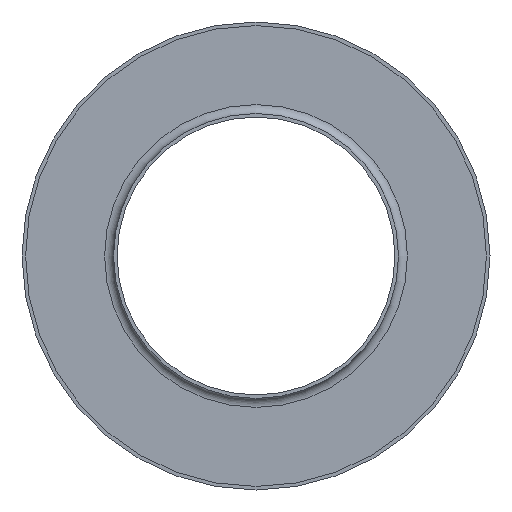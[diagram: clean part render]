
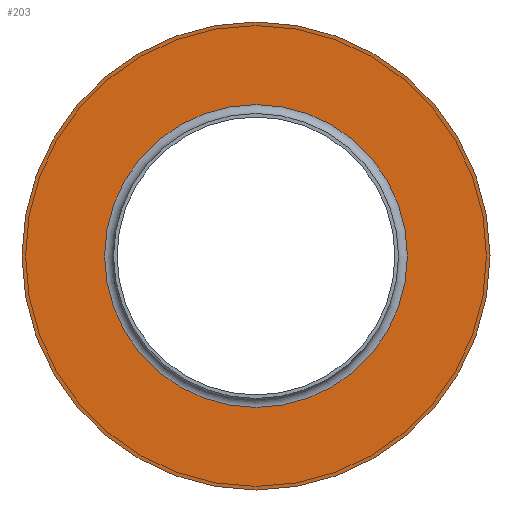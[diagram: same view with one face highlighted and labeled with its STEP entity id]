
A CAD part, front view. The second image highlights one B-rep face of the part: STEP entity #203.
In plain terms, the highlighted planar face has unit normal (0, -1, 0).
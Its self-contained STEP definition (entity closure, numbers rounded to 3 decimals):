
#23=PLANE('',#242);
#38=FACE_BOUND('',#83,.T.);
#54=FACE_OUTER_BOUND('',#82,.T.);
#82=EDGE_LOOP('',(#162));
#83=EDGE_LOOP('',(#163));
#103=CIRCLE('',#239,84.75);
#105=CIRCLE('',#243,131.);
#119=VERTEX_POINT('',#351);
#121=VERTEX_POINT('',#357);
#135=EDGE_CURVE('',#119,#119,#103,.T.);
#137=EDGE_CURVE('',#121,#121,#105,.T.);
#162=ORIENTED_EDGE('',*,*,#137,.F.);
#163=ORIENTED_EDGE('',*,*,#135,.F.);
#203=ADVANCED_FACE('',(#54,#38),#23,.T.);
#239=AXIS2_PLACEMENT_3D('',#352,#297,#298);
#242=AXIS2_PLACEMENT_3D('',#356,#303,#304);
#243=AXIS2_PLACEMENT_3D('',#358,#305,#306);
#297=DIRECTION('center_axis',(0.,-1.,0.));
#298=DIRECTION('ref_axis',(0.,0.,-1.));
#303=DIRECTION('center_axis',(0.,-1.,0.));
#304=DIRECTION('ref_axis',(0.,0.,-1.));
#305=DIRECTION('center_axis',(0.,1.,0.));
#306=DIRECTION('ref_axis',(1.,0.,0.));
#351=CARTESIAN_POINT('',(0.,60.,84.75));
#352=CARTESIAN_POINT('Origin',(0.,60.,0.));
#356=CARTESIAN_POINT('Origin',(0.,60.,131.));
#357=CARTESIAN_POINT('',(0.,60.,131.));
#358=CARTESIAN_POINT('Origin',(0.,60.,0.));
